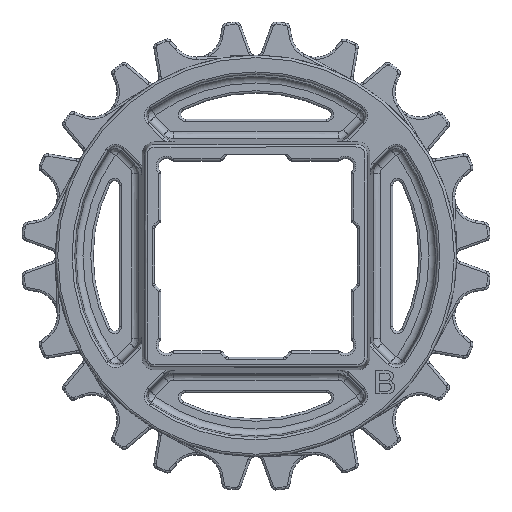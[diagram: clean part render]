
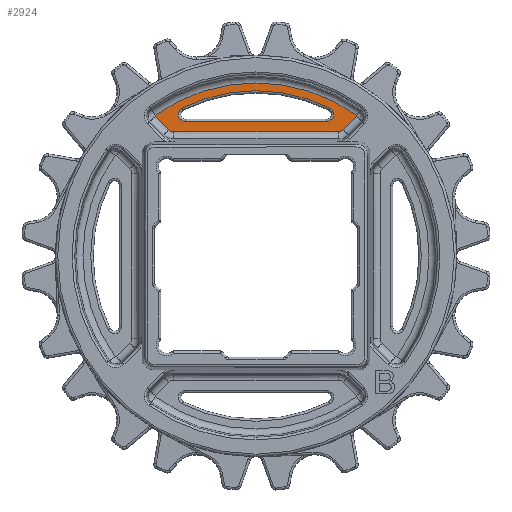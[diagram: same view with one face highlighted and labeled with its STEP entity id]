
A CAD part, top view. The second image highlights one B-rep face of the part: STEP entity #2924.
In plain terms, the highlighted planar face has unit normal (0, 0, 1).
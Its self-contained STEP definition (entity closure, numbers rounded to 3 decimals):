
#2924=ADVANCED_FACE('',(#5918,#5919),#3894,.T.);
#3894=PLANE('',#16567);
#4249=LINE('',#25948,#5047);
#4250=LINE('',#25956,#5048);
#4251=LINE('',#25965,#5049);
#5047=VECTOR('',#19062,1.);
#5048=VECTOR('',#19069,1.);
#5049=VECTOR('',#19076,1.);
#5776=B_SPLINE_CURVE_WITH_KNOTS('',3,(#25967,#25968,#25969,#25970,#25971,
#25972,#25973,#25974,#25975,#25976),.UNSPECIFIED.,.F.,.F.,(4,3,3,4),(0.,
0.499,0.931,1.),.UNSPECIFIED.);
#5777=B_SPLINE_CURVE_WITH_KNOTS('',3,(#25978,#25979,#25980,#25981,#25982,
#25983,#25984,#25985,#25986,#25987),.UNSPECIFIED.,.F.,.F.,(4,3,3,4),(0.,
0.086,0.431,1.),.UNSPECIFIED.);
#5778=B_SPLINE_CURVE_WITH_KNOTS('',3,(#25989,#25990,#25991,#25992,#25993,
#25994,#25995,#25996,#25997,#25998),.UNSPECIFIED.,.F.,.F.,(4,3,3,4),(0.,
0.5,0.927,1.),.UNSPECIFIED.);
#5918=FACE_BOUND('',#6044,.T.);
#5919=FACE_BOUND('',#6045,.T.);
#6044=EDGE_LOOP('',(#7597,#7598,#7599,#7600));
#6045=EDGE_LOOP('',(#7601,#7602,#7603,#7604,#7605,#7606,#7607,#7608));
#7597=ORIENTED_EDGE('',*,*,#13666,.T.);
#7598=ORIENTED_EDGE('',*,*,#13667,.T.);
#7599=ORIENTED_EDGE('',*,*,#13668,.T.);
#7600=ORIENTED_EDGE('',*,*,#13669,.T.);
#7601=ORIENTED_EDGE('',*,*,#13670,.T.);
#7602=ORIENTED_EDGE('',*,*,#13671,.T.);
#7603=ORIENTED_EDGE('',*,*,#13672,.T.);
#7604=ORIENTED_EDGE('',*,*,#13673,.T.);
#7605=ORIENTED_EDGE('',*,*,#13674,.T.);
#7606=ORIENTED_EDGE('',*,*,#13675,.T.);
#7607=ORIENTED_EDGE('',*,*,#13676,.T.);
#7608=ORIENTED_EDGE('',*,*,#13677,.T.);
#12203=VERTEX_POINT('',#25949);
#12204=VERTEX_POINT('',#25950);
#12205=VERTEX_POINT('',#25952);
#12206=VERTEX_POINT('',#25954);
#12207=VERTEX_POINT('',#25957);
#12208=VERTEX_POINT('',#25958);
#12209=VERTEX_POINT('',#25960);
#12210=VERTEX_POINT('',#25962);
#12211=VERTEX_POINT('',#25964);
#12212=VERTEX_POINT('',#25966);
#12213=VERTEX_POINT('',#25977);
#12214=VERTEX_POINT('',#25988);
#13666=EDGE_CURVE('',#12203,#12204,#4249,.T.);
#13667=EDGE_CURVE('',#12204,#12205,#15651,.T.);
#13668=EDGE_CURVE('',#12205,#12206,#15652,.T.);
#13669=EDGE_CURVE('',#12206,#12203,#15653,.T.);
#13670=EDGE_CURVE('',#12207,#12208,#4250,.T.);
#13671=EDGE_CURVE('',#12208,#12209,#15654,.T.);
#13672=EDGE_CURVE('',#12209,#12210,#15655,.T.);
#13673=EDGE_CURVE('',#12210,#12211,#15656,.T.);
#13674=EDGE_CURVE('',#12211,#12212,#4251,.T.);
#13675=EDGE_CURVE('',#12212,#12213,#5776,.T.);
#13676=EDGE_CURVE('',#12213,#12214,#5777,.T.);
#13677=EDGE_CURVE('',#12214,#12207,#5778,.T.);
#15651=CIRCLE('',#16561,1.5);
#15652=CIRCLE('',#16562,35.019);
#15653=CIRCLE('',#16563,1.5);
#15654=CIRCLE('',#16564,0.147);
#15655=CIRCLE('',#16565,36.666);
#15656=CIRCLE('',#16566,0.147);
#16561=AXIS2_PLACEMENT_3D('',#25951,#19063,#19064);
#16562=AXIS2_PLACEMENT_3D('',#25953,#19065,#19066);
#16563=AXIS2_PLACEMENT_3D('',#25955,#19067,#19068);
#16564=AXIS2_PLACEMENT_3D('',#25959,#19070,#19071);
#16565=AXIS2_PLACEMENT_3D('',#25961,#19072,#19073);
#16566=AXIS2_PLACEMENT_3D('',#25963,#19074,#19075);
#16567=AXIS2_PLACEMENT_3D('',#25999,#19077,#19078);
#19062=DIRECTION('',(-1.,0.,0.));
#19063=DIRECTION('',(0.,0.,-1.));
#19064=DIRECTION('',(1.,0.,0.));
#19065=DIRECTION('',(0.,0.,-1.));
#19066=DIRECTION('',(1.,0.,0.));
#19067=DIRECTION('',(0.,0.,-1.));
#19068=DIRECTION('',(1.,0.,0.));
#19069=DIRECTION('',(0.707,0.707,0.));
#19070=DIRECTION('',(0.,0.,1.));
#19071=DIRECTION('',(1.,0.,0.));
#19072=DIRECTION('',(0.,0.,1.));
#19073=DIRECTION('',(1.,0.,0.));
#19074=DIRECTION('',(0.,0.,1.));
#19075=DIRECTION('',(1.,0.,0.));
#19076=DIRECTION('',(0.707,-0.707,0.));
#19077=DIRECTION('',(0.,0.,1.));
#19078=DIRECTION('',(0.,1.,0.));
#25948=CARTESIAN_POINT('',(791.677,575.746,3.5));
#25949=CARTESIAN_POINT('',(821.579,575.746,3.5));
#25950=CARTESIAN_POINT('',(791.677,575.746,3.5));
#25951=CARTESIAN_POINT('',(791.677,577.246,3.5));
#25952=CARTESIAN_POINT('',(791.008,578.589,3.5));
#25953=CARTESIAN_POINT('',(806.628,547.246,3.5));
#25954=CARTESIAN_POINT('',(822.248,578.589,3.5));
#25955=CARTESIAN_POINT('',(821.579,577.246,3.5));
#25956=CARTESIAN_POINT('',(802.489,551.385,3.5));
#25957=CARTESIAN_POINT('',(825.108,574.004,3.5));
#25958=CARTESIAN_POINT('',(827.961,576.857,3.5));
#25959=CARTESIAN_POINT('',(827.857,576.961,3.5));
#25960=CARTESIAN_POINT('',(827.942,577.08,3.5));
#25961=CARTESIAN_POINT('',(806.628,547.246,3.5));
#25962=CARTESIAN_POINT('',(785.313,577.08,3.5));
#25963=CARTESIAN_POINT('',(785.399,576.961,3.5));
#25964=CARTESIAN_POINT('',(785.295,576.857,3.5));
#25965=CARTESIAN_POINT('',(810.767,551.385,3.5));
#25966=CARTESIAN_POINT('',(788.148,574.004,3.5));
#25967=CARTESIAN_POINT('',(788.148,574.004,3.5));
#25968=CARTESIAN_POINT('',(788.285,573.867,3.5));
#25969=CARTESIAN_POINT('',(788.453,573.754,3.5));
#25970=CARTESIAN_POINT('',(788.633,573.679,3.5));
#25971=CARTESIAN_POINT('',(788.788,573.614,3.5));
#25972=CARTESIAN_POINT('',(788.958,573.575,3.5));
#25973=CARTESIAN_POINT('',(789.126,573.565,3.5));
#25974=CARTESIAN_POINT('',(789.154,573.564,3.5));
#25975=CARTESIAN_POINT('',(789.181,573.563,3.5));
#25976=CARTESIAN_POINT('',(789.209,573.563,3.5));
#25977=CARTESIAN_POINT('',(789.209,573.563,3.5));
#25978=CARTESIAN_POINT('',(789.209,573.563,3.5));
#25979=CARTESIAN_POINT('',(790.209,573.563,3.5));
#25980=CARTESIAN_POINT('',(791.209,573.563,3.5));
#25981=CARTESIAN_POINT('',(792.209,573.563,3.5));
#25982=CARTESIAN_POINT('',(796.209,573.563,3.5));
#25983=CARTESIAN_POINT('',(800.209,573.563,3.5));
#25984=CARTESIAN_POINT('',(804.209,573.563,3.5));
#25985=CARTESIAN_POINT('',(810.822,573.563,3.5));
#25986=CARTESIAN_POINT('',(817.434,573.563,3.5));
#25987=CARTESIAN_POINT('',(824.047,573.563,3.5));
#25988=CARTESIAN_POINT('',(824.047,573.563,3.5));
#25989=CARTESIAN_POINT('',(824.047,573.563,3.5));
#25990=CARTESIAN_POINT('',(824.242,573.563,3.5));
#25991=CARTESIAN_POINT('',(824.44,573.603,3.5));
#25992=CARTESIAN_POINT('',(824.62,573.677,3.5));
#25993=CARTESIAN_POINT('',(824.774,573.742,3.5));
#25994=CARTESIAN_POINT('',(824.919,573.833,3.5));
#25995=CARTESIAN_POINT('',(825.044,573.944,3.5));
#25996=CARTESIAN_POINT('',(825.066,573.964,3.5));
#25997=CARTESIAN_POINT('',(825.087,573.984,3.5));
#25998=CARTESIAN_POINT('',(825.108,574.004,3.5));
#25999=CARTESIAN_POINT('',(806.628,547.246,3.5));
